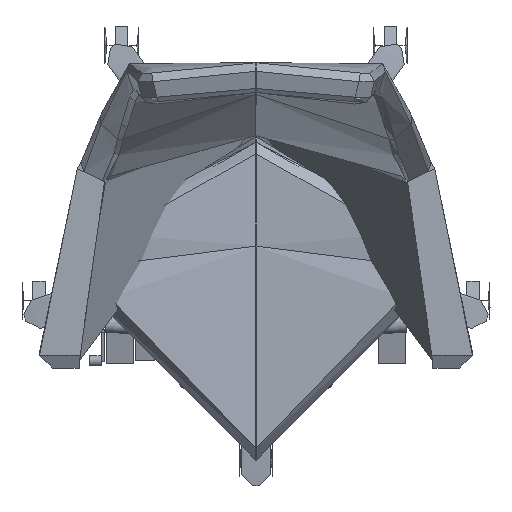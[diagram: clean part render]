
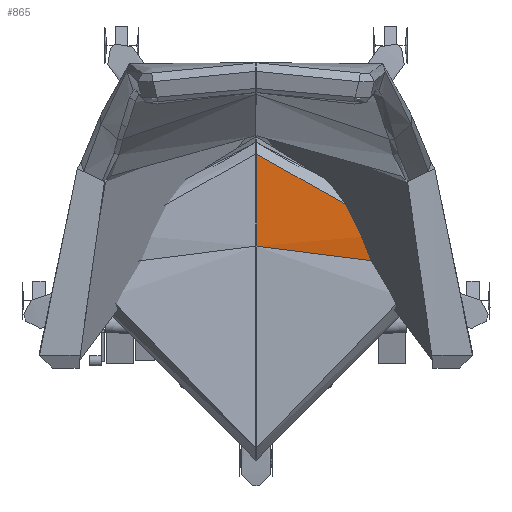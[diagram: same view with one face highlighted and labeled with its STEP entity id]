
A CAD part, top view. The second image highlights one B-rep face of the part: STEP entity #865.
In plain terms, the highlighted free-form (B-spline) face has degree [3, 3] with [7, 6] control points.
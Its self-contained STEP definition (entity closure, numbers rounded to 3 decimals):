
#130=B_SPLINE_CURVE_WITH_KNOTS('',3,(#13032,#13033,#13034,#13035),
 .UNSPECIFIED.,.F.,.F.,(4,4),(-34.467,-34.441),
 .UNSPECIFIED.);
#131=B_SPLINE_CURVE_WITH_KNOTS('',3,(#13036,#13037,#13038,#13039,#13040,
#13041,#13042),.UNSPECIFIED.,.F.,.F.,(4,1,1,1,4),(236.796,270.63,
338.288,405.945,445.572),.UNSPECIFIED.);
#132=B_SPLINE_CURVE_WITH_KNOTS('',3,(#13043,#13044,#13045,#13046,#13047,
#13048),.UNSPECIFIED.,.F.,.F.,(4,1,1,4),(-136.262,-100.335,
-50.168,0.),.UNSPECIFIED.);
#146=B_SPLINE_CURVE_WITH_KNOTS('',3,(#13349,#13350,#13351,#13352,#13353,
#13354,#13355,#13356,#13357,#13358,#13359,#13360,#13361,#13362,#13363,#13364,
#13365,#13366,#13367,#13368,#13369,#13370,#13371,#13372,#13373,#13374,#13375,
#13376,#13377,#13378,#13379,#13380,#13381,#13382,#13383,#13384,#13385,#13386),
 .UNSPECIFIED.,.F.,.F.,(4,3,1,1,1,1,1,1,1,1,1,1,1,1,1,1,1,1,1,1,1,1,1,1,
1,1,1,1,1,1,1,1,1,4),(56.847,70.578,82.026,
92.205,98.552,102.991,107.888,112.721,
117.51,122.292,127.108,130.329,131.94,
133.55,138.467,143.384,153.217,159.941,
166.664,176.849,182.868,188.887,200.925,
206.661,212.396,218.131,223.867,232.551,
243.262,253.973,264.684,275.395,300.327,
325.258),.UNSPECIFIED.);
#152=B_SPLINE_CURVE_WITH_KNOTS('',3,(#13465,#13466,#13467,#13468,#13469,
#13470),.UNSPECIFIED.,.F.,.F.,(4,1,1,4),(0.,16.588,33.176,
49.764),.UNSPECIFIED.);
#537=B_SPLINE_SURFACE_WITH_KNOTS('',3,3,((#11210,#11211,#11212,#11213,#11214,
#11215),(#11216,#11217,#11218,#11219,#11220,#11221),(#11222,#11223,#11224,
#11225,#11226,#11227),(#11228,#11229,#11230,#11231,#11232,#11233),(#11234,
#11235,#11236,#11237,#11238,#11239),(#11240,#11241,#11242,#11243,#11244,
#11245),(#11246,#11247,#11248,#11249,#11250,#11251)),.UNSPECIFIED.,.F.,
 .F.,.F.,(4,1,1,1,4),(4,1,1,4),(236.796,270.63,338.288,
405.945,473.603),(0.,50.168,100.335,
150.503),.UNSPECIFIED.);
#865=ADVANCED_FACE('',(#1256),#537,.T.);
#1256=FACE_OUTER_BOUND('',#1647,.T.);
#1647=EDGE_LOOP('',(#2550,#2551,#2552,#2553,#2554));
#2550=ORIENTED_EDGE('',*,*,#3983,.T.);
#2551=ORIENTED_EDGE('',*,*,#3977,.T.);
#2552=ORIENTED_EDGE('',*,*,#3961,.T.);
#2553=ORIENTED_EDGE('',*,*,#3960,.T.);
#2554=ORIENTED_EDGE('',*,*,#3959,.T.);
#3959=EDGE_CURVE('',#5276,#5274,#130,.T.);
#3960=EDGE_CURVE('',#5278,#5276,#131,.T.);
#3961=EDGE_CURVE('',#5277,#5278,#132,.T.);
#3977=EDGE_CURVE('',#5275,#5277,#146,.T.);
#3983=EDGE_CURVE('',#5274,#5275,#152,.T.);
#5274=VERTEX_POINT('',#12951);
#5275=VERTEX_POINT('',#12952);
#5276=VERTEX_POINT('',#12953);
#5277=VERTEX_POINT('',#12954);
#5278=VERTEX_POINT('',#12955);
#11210=CARTESIAN_POINT('',(0.,-5.59,462.349));
#11211=CARTESIAN_POINT('',(0.,11.042,469.31));
#11212=CARTESIAN_POINT('',(0.,44.305,467.231));
#11213=CARTESIAN_POINT('',(0.,94.2,464.112));
#11214=CARTESIAN_POINT('',(0.,128.462,461.971));
#11215=CARTESIAN_POINT('',(0.,145.093,452.932));
#11216=CARTESIAN_POINT('',(11.613,-5.59,462.349));
#11217=CARTESIAN_POINT('',(11.538,11.042,469.31));
#11218=CARTESIAN_POINT('',(11.389,44.305,467.231));
#11219=CARTESIAN_POINT('',(11.166,94.2,464.112));
#11220=CARTESIAN_POINT('',(11.018,128.462,461.971));
#11221=CARTESIAN_POINT('',(10.943,145.093,452.932));
#11222=CARTESIAN_POINT('',(46.524,-5.785,462.462));
#11223=CARTESIAN_POINT('',(46.217,10.777,469.426));
#11224=CARTESIAN_POINT('',(45.604,43.901,467.356));
#11225=CARTESIAN_POINT('',(44.684,93.586,464.251));
#11226=CARTESIAN_POINT('',(44.07,127.707,462.118));
#11227=CARTESIAN_POINT('',(43.763,144.269,453.083));
#11228=CARTESIAN_POINT('',(104.524,-7.087,463.543));
#11229=CARTESIAN_POINT('',(103.83,9.01,470.537));
#11230=CARTESIAN_POINT('',(102.442,41.204,468.525));
#11231=CARTESIAN_POINT('',(100.36,89.495,465.507));
#11232=CARTESIAN_POINT('',(98.972,122.687,463.432));
#11233=CARTESIAN_POINT('',(98.278,138.784,454.426));
#11234=CARTESIAN_POINT('',(173.933,-15.953,466.797));
#11235=CARTESIAN_POINT('',(172.684,-0.326,473.82));
#11236=CARTESIAN_POINT('',(170.185,30.927,471.867));
#11237=CARTESIAN_POINT('',(166.437,77.807,468.937));
#11238=CARTESIAN_POINT('',(163.938,110.058,464.921));
#11239=CARTESIAN_POINT('',(162.689,125.685,457.945));
#11240=CARTESIAN_POINT('',(217.508,-33.679,471.105));
#11241=CARTESIAN_POINT('',(216.068,-17.527,478.095));
#11242=CARTESIAN_POINT('',(213.188,14.779,476.076));
#11243=CARTESIAN_POINT('',(208.867,63.237,471.048));
#11244=CARTESIAN_POINT('',(205.987,96.54,464.966));
#11245=CARTESIAN_POINT('',(204.547,112.693,457.957));
#11246=CARTESIAN_POINT('',(237.377,-45.536,473.846));
#11247=CARTESIAN_POINT('',(236.011,-28.901,472.806));
#11248=CARTESIAN_POINT('',(233.279,4.367,470.727));
#11249=CARTESIAN_POINT('',(229.18,54.27,467.608));
#11250=CARTESIAN_POINT('',(226.448,88.536,461.466));
#11251=CARTESIAN_POINT('',(225.082,105.17,456.427));
#12951=CARTESIAN_POINT('',(211.806,-32.348,470.74));
#12952=CARTESIAN_POINT('',(207.619,12.419,474.194));
#12953=CARTESIAN_POINT('',(211.783,-32.338,470.738));
#12954=CARTESIAN_POINT('',(-0.001,130.826,458.885));
#12955=CARTESIAN_POINT('',(0.,-5.59,462.349));
#13032=CARTESIAN_POINT('',(211.783,-32.338,470.738));
#13033=CARTESIAN_POINT('',(211.79,-32.341,470.739));
#13034=CARTESIAN_POINT('',(211.798,-32.345,470.739));
#13035=CARTESIAN_POINT('',(211.806,-32.348,470.74));
#13036=CARTESIAN_POINT('',(0.,-5.59,462.349));
#13037=CARTESIAN_POINT('',(11.613,-5.59,462.349));
#13038=CARTESIAN_POINT('',(46.524,-5.785,462.462));
#13039=CARTESIAN_POINT('',(104.524,-7.087,463.543));
#13040=CARTESIAN_POINT('',(164.348,-14.728,466.348));
#13041=CARTESIAN_POINT('',(199.34,-26.842,469.412));
#13042=CARTESIAN_POINT('',(211.783,-32.338,470.738));
#13043=CARTESIAN_POINT('',(-0.001,130.826,458.885));
#13044=CARTESIAN_POINT('',(-0.001,118.756,462.578));
#13045=CARTESIAN_POINT('',(-0.001,89.479,464.408));
#13046=CARTESIAN_POINT('',(0.,44.305,467.231));
#13047=CARTESIAN_POINT('',(0.,11.042,469.31));
#13048=CARTESIAN_POINT('',(0.,-5.59,462.349));
#13349=CARTESIAN_POINT('',(207.619,12.419,474.194));
#13350=CARTESIAN_POINT('',(207.125,17.01,473.865));
#13351=CARTESIAN_POINT('',(206.595,21.608,473.522));
#13352=CARTESIAN_POINT('',(206.01,26.218,473.16));
#13353=CARTESIAN_POINT('',(205.524,30.063,472.857));
#13354=CARTESIAN_POINT('',(204.518,37.337,472.256));
#13355=CARTESIAN_POINT('',(202.833,46.729,471.399));
#13356=CARTESIAN_POINT('',(201.174,53.698,470.716));
#13357=CARTESIAN_POINT('',(199.664,58.839,470.193));
#13358=CARTESIAN_POINT('',(198.049,63.406,469.716));
#13359=CARTESIAN_POINT('',(196.081,67.948,469.231));
#13360=CARTESIAN_POINT('',(193.828,72.339,468.753));
#13361=CARTESIAN_POINT('',(191.282,76.604,468.269));
#13362=CARTESIAN_POINT('',(188.746,80.246,467.836));
#13363=CARTESIAN_POINT('',(186.676,82.875,467.51));
#13364=CARTESIAN_POINT('',(185.233,84.58,467.293));
#13365=CARTESIAN_POINT('',(183.362,86.691,467.018));
#13366=CARTESIAN_POINT('',(180.591,89.527,466.636));
#13367=CARTESIAN_POINT('',(175.519,94.049,465.994));
#13368=CARTESIAN_POINT('',(169.554,98.401,465.329));
#13369=CARTESIAN_POINT('',(162.721,102.401,464.689));
#13370=CARTESIAN_POINT('',(155.546,105.966,464.111));
#13371=CARTESIAN_POINT('',(148.334,108.886,463.622));
#13372=CARTESIAN_POINT('',(141.242,111.381,463.188));
#13373=CARTESIAN_POINT('',(133.477,113.843,462.744));
#13374=CARTESIAN_POINT('',(125.736,115.982,462.334));
#13375=CARTESIAN_POINT('',(118.052,117.916,461.939));
#13376=CARTESIAN_POINT('',(112.417,119.248,461.656));
#13377=CARTESIAN_POINT('',(106.77,120.499,461.382));
#13378=CARTESIAN_POINT('',(100.145,121.872,461.071));
#13379=CARTESIAN_POINT('',(91.869,123.442,460.705));
#13380=CARTESIAN_POINT('',(81.918,125.088,460.31));
#13381=CARTESIAN_POINT('',(71.269,126.584,459.94));
#13382=CARTESIAN_POINT('',(60.596,127.831,459.626));
#13383=CARTESIAN_POINT('',(45.175,129.295,459.252));
#13384=CARTESIAN_POINT('',(24.999,130.522,458.94));
#13385=CARTESIAN_POINT('',(8.36,130.824,458.894));
#13386=CARTESIAN_POINT('',(-0.001,130.826,458.885));
#13465=CARTESIAN_POINT('',(211.806,-32.348,470.74));
#13466=CARTESIAN_POINT('',(211.397,-27.586,472.326));
#13467=CARTESIAN_POINT('',(210.545,-17.707,474.473));
#13468=CARTESIAN_POINT('',(209.164,-2.619,475.109));
#13469=CARTESIAN_POINT('',(208.161,7.415,474.535));
#13470=CARTESIAN_POINT('',(207.619,12.419,474.194));
